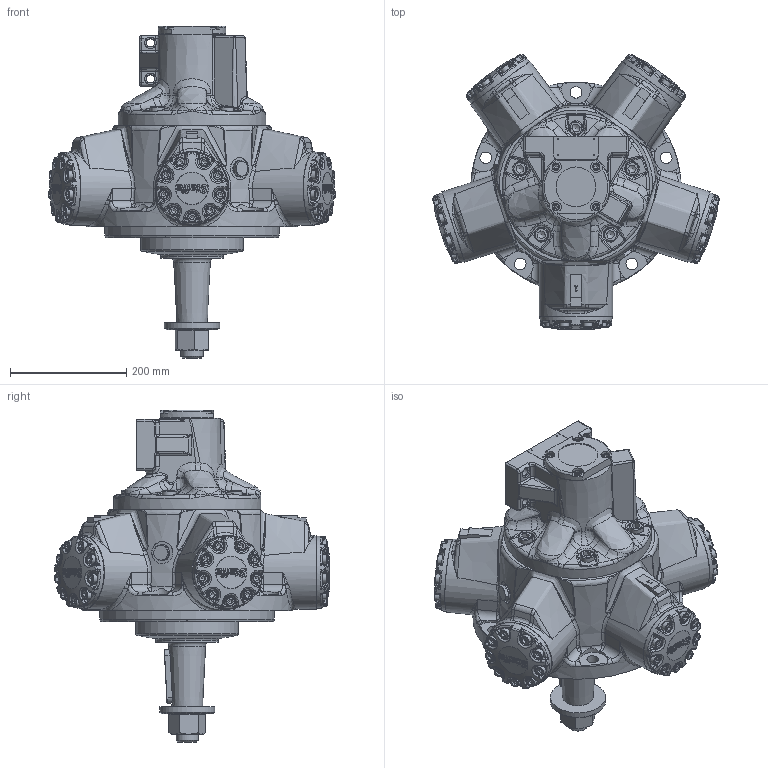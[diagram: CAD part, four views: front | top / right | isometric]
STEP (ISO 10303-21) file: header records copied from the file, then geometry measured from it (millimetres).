
FILE_DESCRIPTION(/* description */ (''),/* implementation_level */ '2;1');
FILE_NAME(/* name */ 'HMB080_T_SM3_71.stp',/* time_stamp */ '2025-12-08T15:52:07Z',/* author */ ('ccallanga'),/* organization */ (''),/* preprocessor_version */ 'ST-DEVELOPER v20',/* originating_system */ 'Autodesk Inventor 2024',/* authorisation */ '');
FILE_SCHEMA (('AUTOMOTIVE_DESIGN { 1 0 10303 214 3 1 1 }'));
Products named in the file (1): HMB060-80 Web Assembly_Simplify_1
Bounding box: 494.24 x 473.71 x 572.06 mm (x, y, z)
Volume: 25270103.9 mm3; surface area: 816419.4 mm2
Topology: 1 solids, 1 shells, 5192 faces, 12467 edges, 7265 vertices
Faces by surface type: bspline 1941, plane 1323, cylinder 1063, torus 543, sphere 185, cone 137
Full cylindrical faces by diameter (mm): 2.2 x4, 6.5 x1, 7 x1, 8.376 x2, 9.4 x1, 11.913 x4, 12 x1, 12.7 x4, 14 x4, 16 x55, 16.5 x45, 16.51 x1, 17 x10, 20 x9, 23.825 x5, 25.4 x5, 26.92 x2, 32 x2, 38.1 x4, 50.8 x1, 68.58 x1, 69.825 x1, 73.914 x1, 88.901 x1, 95.25 x1, 107.95 x1, 127 x5, 177.8 x1, 254 x1, 301.535 x1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
Entity records: 230176 total; most frequent: CARTESIAN_POINT 119186, ORIENTED_EDGE 24430, DIRECTION 17981, EDGE_CURVE 12215, VERTEX_POINT 7265, AXIS2_PLACEMENT_3D 7112, EDGE_LOOP 5452, STYLED_ITEM 5193
